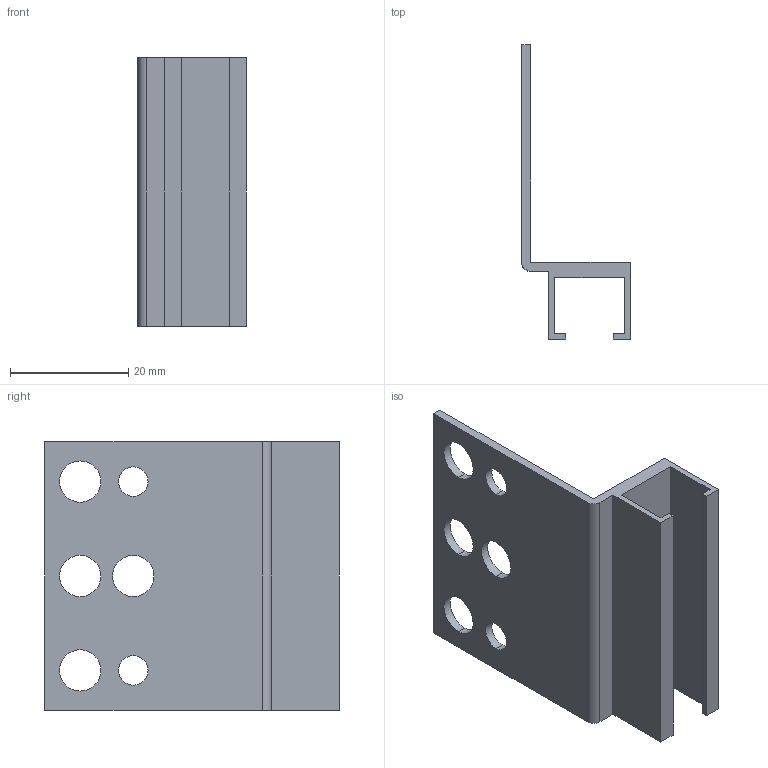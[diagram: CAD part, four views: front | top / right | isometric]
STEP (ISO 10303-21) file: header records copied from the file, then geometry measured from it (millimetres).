
FILE_DESCRIPTION (( 'STEP AP214' ), '1' );
FILE_NAME ('Blindfrontbefestigung_S7600056SZ.STEP', '2010-09-08T14:41:56', ( 'grass' ), ( '' ), 'SwSTEP 2.0', 'SolidWorks 2009', '' );
FILE_SCHEMA (( 'AUTOMOTIVE_DESIGN' ));
Length unit declared in the file: millimetre
Products named in the file (1): Blindfrontbefestigung_S7600056SZ
Bounding box: 18.4 x 49.9 x 45.5 mm (x, y, z)
Volume: 5218.7 mm3; surface area: 7522.1 mm2
Topology: 1 solids, 1 shells, 31 faces, 87 edges, 58 vertices
Faces by surface type: plane 18, cylinder 13
Entity records: 1065 total; most frequent: CARTESIAN_POINT 177, DIRECTION 177, ORIENTED_EDGE 174, EDGE_CURVE 87, VECTOR 61, LINE 61, AXIS2_PLACEMENT_3D 58, VERTEX_POINT 58
